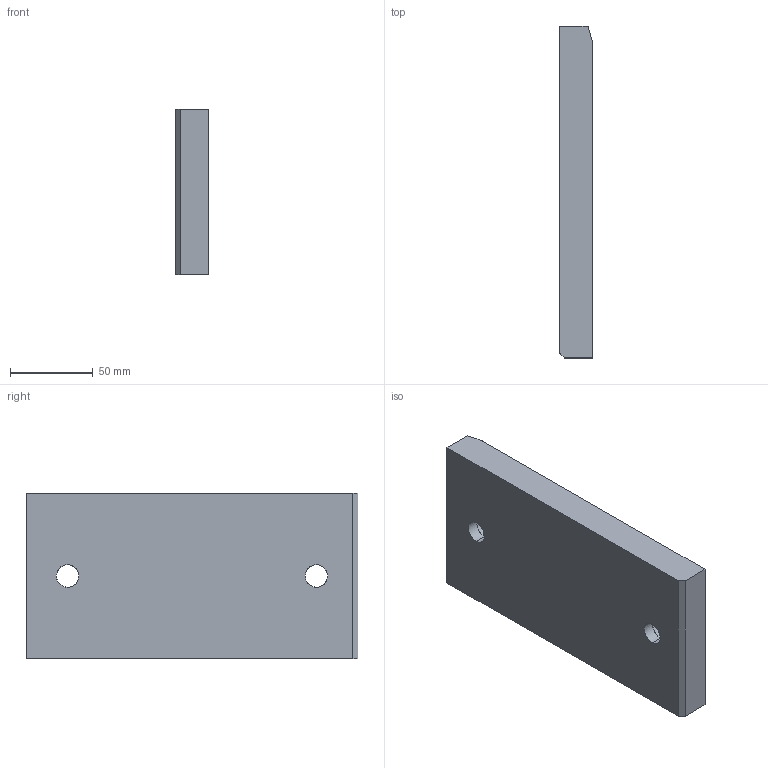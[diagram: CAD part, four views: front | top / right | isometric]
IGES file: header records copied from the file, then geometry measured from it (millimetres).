
Start section: START RECORD GO HERE.
Global section: file name: A915-100X200.igs; native system: DASSAULT SYSTEMES CATIA V5 R20 - www.3ds.com; preprocessor: CATIA Version 5 Release 20 ; author: Utente; organization: NB04-ASUS; date: 20200407.211147; units: millimetre
Bounding box: 20 x 200 x 100 mm (x, y, z)
Surface area: 53056.1 mm2 (no closed solid volume)
Topology: 0 solids, 0 shells, 23 faces, 106 edges, 106 vertices
Faces by surface type: revolution 13, extrusion 10
